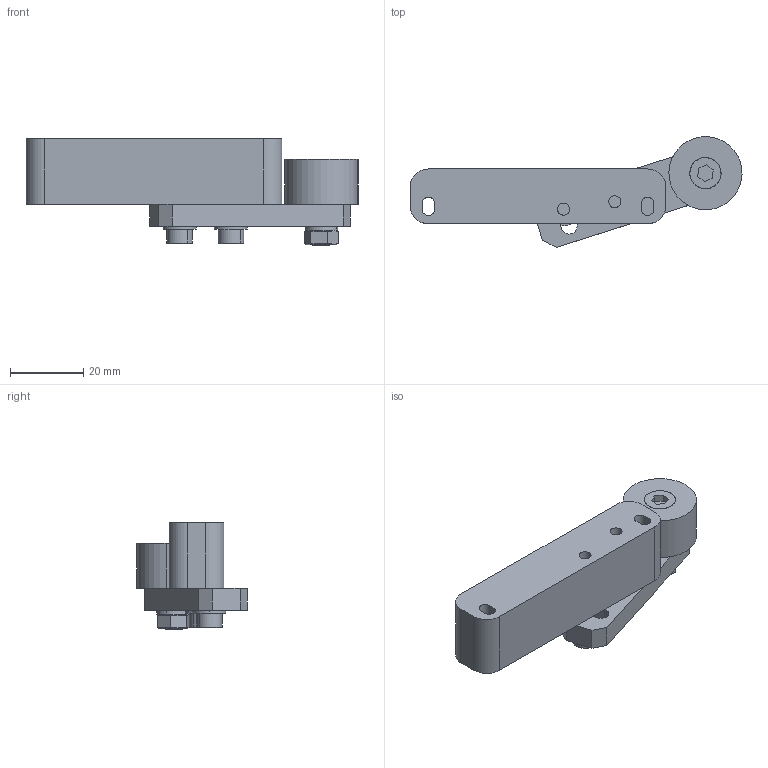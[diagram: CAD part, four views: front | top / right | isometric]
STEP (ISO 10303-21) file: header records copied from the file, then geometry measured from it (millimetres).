
FILE_DESCRIPTION (( 'STEP AP214' ), '1' );
FILE_NAME ('ACC097_Roller_FlexAB_DBR.STEP', '2025-10-21T13:47:13', ( '' ), ( '' ), 'SwSTEP 2.0', 'SolidWorks 2024', '' );
FILE_SCHEMA (( 'AUTOMOTIVE_DESIGN' ));
Length unit declared in the file: millimetre
Products named in the file (1): ACC097_Roller_FlexAB_DBR
Bounding box: 90.78 x 30.25 x 29.2 mm (x, y, z)
Volume: 26462.4 mm3; surface area: 12092.6 mm2
Topology: 10 solids, 10 shells, 283 faces, 746 edges, 492 vertices
Faces by surface type: cylinder 176, plane 88, cone 10, bspline 9
Entity records: 27517 total; most frequent: CARTESIAN_POINT 17906, ORIENTED_EDGE 1492, DIRECTION 1123, EDGE_CURVE 746, VERTEX_POINT 492, AXIS2_PLACEMENT_3D 389, VECTOR 345, LINE 345
